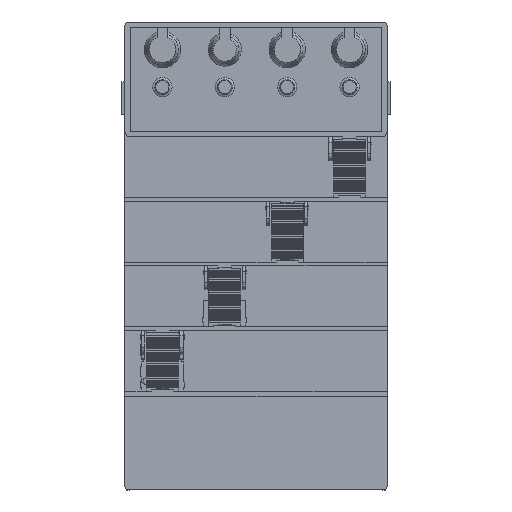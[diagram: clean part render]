
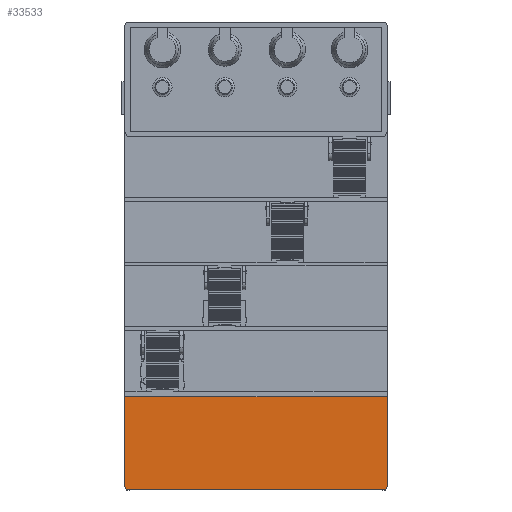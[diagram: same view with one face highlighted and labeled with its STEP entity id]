
A CAD part, top view. The second image highlights one B-rep face of the part: STEP entity #33533.
In plain terms, the highlighted planar face has unit normal (0, 0, 1).
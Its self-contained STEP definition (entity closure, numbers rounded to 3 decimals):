
#2216 = EDGE_CURVE ( 'NONE', #86599, #155917, #105390, .T. ) ;
#8424 = ORIENTED_EDGE ( 'NONE', *, *, #131285, .F. ) ;
#8569 = VECTOR ( 'NONE', #64639, 1000. ) ;
#10940 = DIRECTION ( 'NONE',  ( 0., 0., 1. ) ) ;
#14184 = LINE ( 'NONE', #100539, #8569 ) ;
#23176 = CARTESIAN_POINT ( 'NONE',  ( 90.635, -132.171, 441.25 ) ) ;
#28091 = FACE_OUTER_BOUND ( 'NONE', #144819, .T. ) ;
#28814 = DIRECTION ( 'NONE',  ( 0., -1., 0. ) ) ;
#29773 = CARTESIAN_POINT ( 'NONE',  ( 89.237, -218.921, 441.25 ) ) ;
#29879 = ORIENTED_EDGE ( 'NONE', *, *, #2216, .F. ) ;
#33533 = ADVANCED_FACE ( 'NONE', ( #28091 ), #68472, .T. ) ;
#34690 = CARTESIAN_POINT ( 'NONE',  ( -153.365, -215.921, 441.25 ) ) ;
#46792 = CARTESIAN_POINT ( 'NONE',  ( -13.365, -8.921, 441.25 ) ) ;
#52514 = ORIENTED_EDGE ( 'NONE', *, *, #140107, .F. ) ;
#59678 = VECTOR ( 'NONE', #151896, 1000. ) ;
#59909 = ORIENTED_EDGE ( 'NONE', *, *, #133418, .F. ) ;
#60117 = VERTEX_POINT ( 'NONE', #134527 ) ;
#60589 = CARTESIAN_POINT ( 'NONE',  ( 90.635, -215.921, 441.25 ) ) ;
#60965 = LINE ( 'NONE', #106884, #140463 ) ;
#64639 = DIRECTION ( 'NONE',  ( 1., 0., 0. ) ) ;
#68472 = PLANE ( 'NONE',  #130824 ) ;
#69468 = DIRECTION ( 'NONE',  ( -0.423, 0.906, 0. ) ) ;
#76825 = ORIENTED_EDGE ( 'NONE', *, *, #136596, .F. ) ;
#76861 = LINE ( 'NONE', #101129, #131777 ) ;
#84714 = ORIENTED_EDGE ( 'NONE', *, *, #100200, .F. ) ;
#86599 = VERTEX_POINT ( 'NONE', #60589 ) ;
#90209 = VECTOR ( 'NONE', #156659, 1000. ) ;
#90570 = CARTESIAN_POINT ( 'NONE',  ( -153.365, -132.171, 441.25 ) ) ;
#95350 = LINE ( 'NONE', #145687, #102886 ) ;
#97298 = VERTEX_POINT ( 'NONE', #131985 ) ;
#97448 = DIRECTION ( 'NONE',  ( 1., 0., 0. ) ) ;
#100200 = EDGE_CURVE ( 'NONE', #97298, #120151, #14184, .T. ) ;
#100539 = CARTESIAN_POINT ( 'NONE',  ( -153.365, -132.171, 441.25 ) ) ;
#101129 = CARTESIAN_POINT ( 'NONE',  ( 90.635, -132.171, 441.25 ) ) ;
#102886 = VECTOR ( 'NONE', #69468, 1000. ) ;
#105390 = LINE ( 'NONE', #144495, #90209 ) ;
#106884 = CARTESIAN_POINT ( 'NONE',  ( -153.365, -218.921, 441.25 ) ) ;
#120151 = VERTEX_POINT ( 'NONE', #23176 ) ;
#127603 = VERTEX_POINT ( 'NONE', #34690 ) ;
#130824 = AXIS2_PLACEMENT_3D ( 'NONE', #46792, #10940, #97448 ) ;
#131285 = EDGE_CURVE ( 'NONE', #127603, #97298, #156147, .T. ) ;
#131777 = VECTOR ( 'NONE', #28814, 1000. ) ;
#131985 = CARTESIAN_POINT ( 'NONE',  ( -153.365, -132.171, 441.25 ) ) ;
#133418 = EDGE_CURVE ( 'NONE', #60117, #127603, #95350, .T. ) ;
#134527 = CARTESIAN_POINT ( 'NONE',  ( -151.966, -218.921, 441.25 ) ) ;
#136596 = EDGE_CURVE ( 'NONE', #120151, #86599, #76861, .T. ) ;
#140107 = EDGE_CURVE ( 'NONE', #155917, #60117, #60965, .T. ) ;
#140463 = VECTOR ( 'NONE', #156567, 1000. ) ;
#144495 = CARTESIAN_POINT ( 'NONE',  ( 89.237, -218.921, 441.25 ) ) ;
#144819 = EDGE_LOOP ( 'NONE', ( #52514, #29879, #76825, #84714, #8424, #59909 ) ) ;
#145687 = CARTESIAN_POINT ( 'NONE',  ( -153.365, -215.921, 441.25 ) ) ;
#151896 = DIRECTION ( 'NONE',  ( 0., 1., 0. ) ) ;
#155917 = VERTEX_POINT ( 'NONE', #29773 ) ;
#156147 = LINE ( 'NONE', #90570, #59678 ) ;
#156567 = DIRECTION ( 'NONE',  ( -1., 0., 0. ) ) ;
#156659 = DIRECTION ( 'NONE',  ( -0.423, -0.906, 0. ) ) ;
